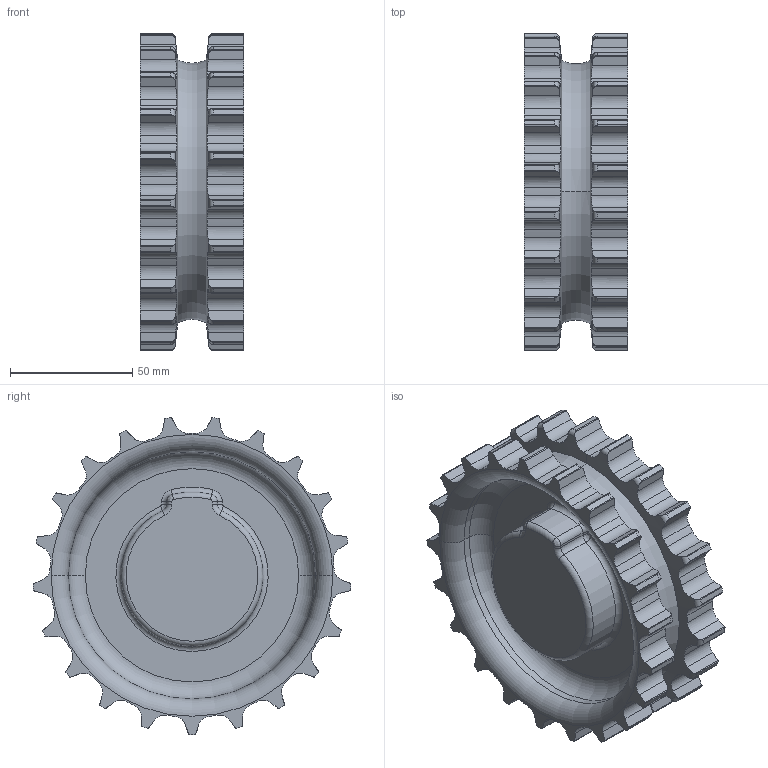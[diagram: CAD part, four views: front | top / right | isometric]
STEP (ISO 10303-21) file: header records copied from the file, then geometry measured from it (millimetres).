
FILE_DESCRIPTION((''),'2;1');
FILE_NAME('30Z21','2012-07-02T',('mth'),(''),'PRO/ENGINEER BY PARAMETRIC TECHNOLOGY CORPORATION, 2012130','PRO/ENGINEER BY PARAMETRIC TECHNOLOGY CORPORATION, 2012130','');
FILE_SCHEMA(('AUTOMOTIVE_DESIGN { 1 0 10303 214 1 1 1 1 }'));
Length unit declared in the file: millimetre
Products named in the file (1): 30Z21
Bounding box: 42.3 x 129.78 x 129.44 mm (x, y, z)
Volume: 270097.2 mm3; surface area: 60166.7 mm2
Topology: 1 solids, 1 shells, 1103 faces, 3157 edges, 2090 vertices
Faces by surface type: plane 747, cylinder 276, torus 68, bspline 8, cone 4
Entity records: 49298 total; most frequent: CARTESIAN_POINT 10884, ORIENTED_EDGE 6314, DIRECTION 5500, PRESENTATION_STYLE_ASSIGNMENT 3158, STYLED_ITEM 3158, CURVE_STYLE 3157, EDGE_CURVE 3157, VECTOR 2322
